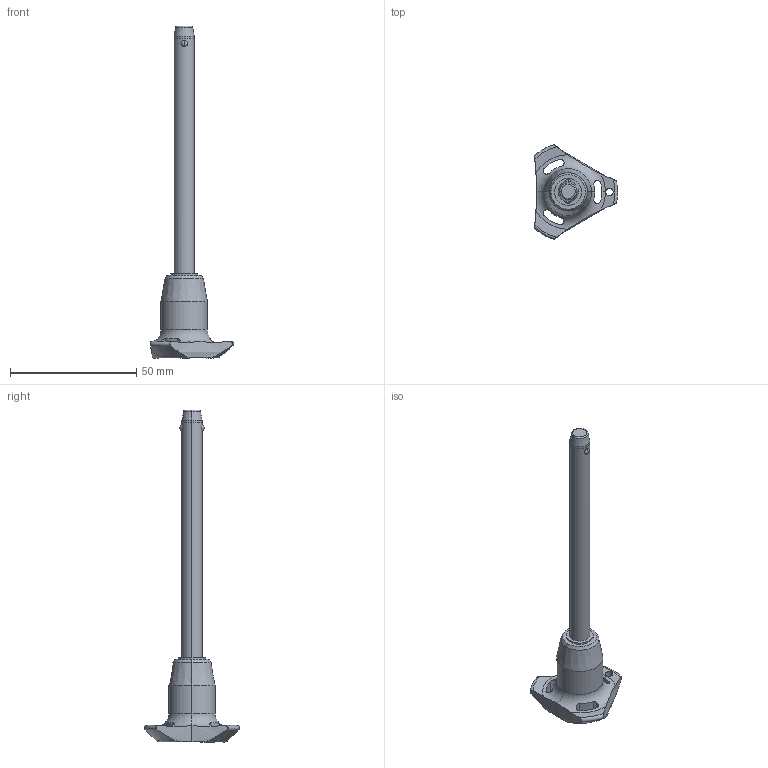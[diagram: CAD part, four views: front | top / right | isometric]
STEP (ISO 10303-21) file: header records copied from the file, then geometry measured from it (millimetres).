
FILE_DESCRIPTION (( 'STEP AP203' ), '1' );
FILE_NAME ('QR1726.M08-090-T.step', '2025-11-13T11:04:26', ( '' ), ( '' ), 'SwSTEP 2.0', 'SolidWorks 2019', '' );
FILE_SCHEMA (( 'CONFIG_CONTROL_DESIGN' ));
Length unit declared in the file: millimetre
Products named in the file (1): QR1726.M08-090-T
Bounding box: 33 x 37.51 x 131.5 mm (x, y, z)
Volume: 14501.6 mm3; surface area: 6245.8 mm2
Topology: 1 solids, 1 shells, 68 faces, 180 edges, 113 vertices
Faces by surface type: cylinder 32, cone 14, torus 11, sphere 6, plane 5
Entity records: 2811 total; most frequent: CARTESIAN_POINT 1071, ORIENTED_EDGE 360, DIRECTION 347, EDGE_CURVE 180, AXIS2_PLACEMENT_3D 154, VERTEX_POINT 113, CIRCLE 85, EDGE_LOOP 75
